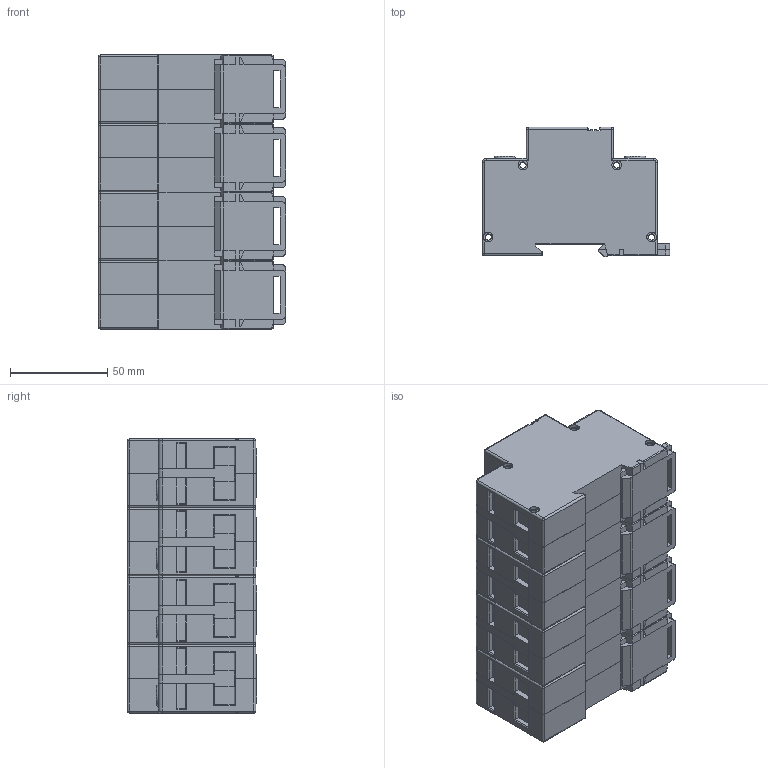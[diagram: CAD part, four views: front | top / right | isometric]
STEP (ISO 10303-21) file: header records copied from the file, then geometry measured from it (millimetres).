
FILE_DESCRIPTION(/* description */ (''),/* implementation_level */ '2;1');
FILE_NAME(/* name */ 'K:\PROJEKTY ROZPRACOVANÉ\MODELY DO KATALOGU\HS\3D - STEP\HLA50 4+0.stp',/* time_stamp */ '2020-03-24T16:12:52+01:00',/* author */ ('M Koliska'),/* organization */ (''),/* preprocessor_version */ 'ST-DEVELOPER v18',/* originating_system */ 'Autodesk Inventor 2020',/* authorisation */ '');
FILE_SCHEMA (('AUTOMOTIVE_DESIGN { 1 0 10303 214 3 1 1 }'));
Length unit declared in the file: millimetre
Products named in the file (4): HS50-50 4+0; HS 2.,3.; HS 4.; DIN 7985 (H) - M6x10-H
Assembly tree (10 placements, depth 2):
  HS50-50 4+0
    HS 4.  x2
    HS 2.,3.  x2
    DIN 7985 (H) - M6x10-H  x6
Bounding box: 96.3 x 66.5 x 140.8 mm (x, y, z)
Volume: 697589.5 mm3; surface area: 103652.6 mm2
Topology: 10 solids, 14 shells, 1718 faces, 4696 edges, 2984 vertices
Faces by surface type: plane 1150, cylinder 394, cone 96, bspline 32, sphere 30, torus 16
Full cylindrical faces by diameter (mm): 3.2 x16, 5 x32, 5.5 x6, 6 x6, 8 x6
Entity records: 24862 total; most frequent: CARTESIAN_POINT 4531, ORIENTED_EDGE 4268, DIRECTION 4157, EDGE_CURVE 2134, LINE 1609, VECTOR 1609, VERTEX_POINT 1348, AXIS2_PLACEMENT_3D 1274
